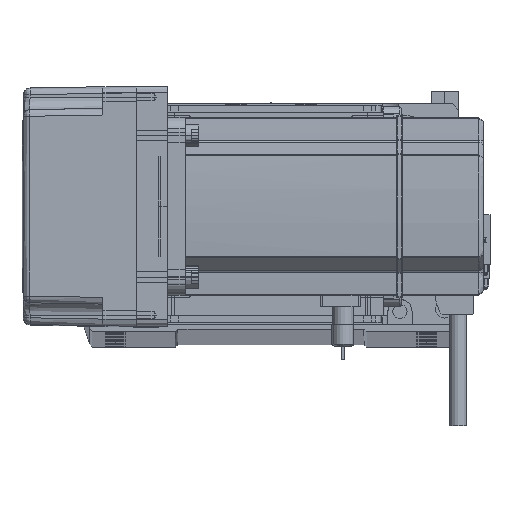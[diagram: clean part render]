
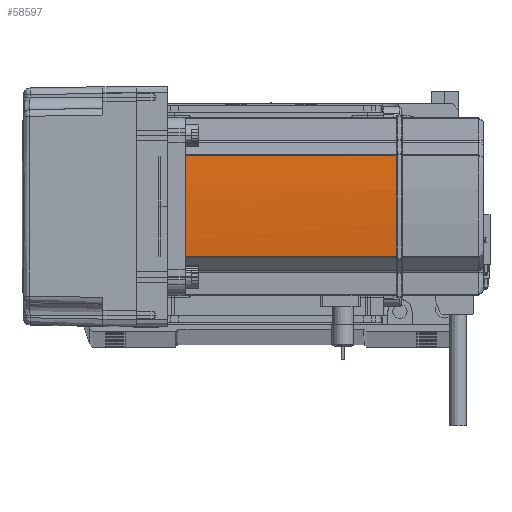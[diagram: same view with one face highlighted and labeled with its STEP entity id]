
A CAD part, top view. The second image highlights one B-rep face of the part: STEP entity #58597.
In plain terms, the highlighted cylindrical face has radius 270 mm (diameter 540 mm), a partial arc.
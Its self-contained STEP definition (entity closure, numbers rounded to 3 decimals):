
#1454 = CIRCLE ( 'NONE', #5414, 270. ) ;
#1481 = ORIENTED_EDGE ( 'NONE', *, *, #44801, .T. ) ;
#4629 = DIRECTION ( 'NONE',  ( -1., 0., 0. ) ) ;
#5029 = VERTEX_POINT ( 'NONE', #13039 ) ;
#5414 = AXIS2_PLACEMENT_3D ( 'NONE', #12383, #50113, #55531 ) ;
#5591 = CARTESIAN_POINT ( 'NONE',  ( -230., 0., 58. ) ) ;
#5820 = DIRECTION ( 'NONE',  ( 0., 0., -1. ) ) ;
#6612 = FACE_OUTER_BOUND ( 'NONE', #26847, .T. ) ;
#7896 = VERTEX_POINT ( 'NONE', #54587 ) ;
#8948 = CARTESIAN_POINT ( 'NONE',  ( 39.042, -22.724, 58. ) ) ;
#9415 = VERTEX_POINT ( 'NONE', #21417 ) ;
#9651 = ORIENTED_EDGE ( 'NONE', *, *, #68433, .F. ) ;
#11146 = CARTESIAN_POINT ( 'NONE',  ( 40., -0.127, 134. ) ) ;
#12050 = CARTESIAN_POINT ( 'NONE',  ( 40., -0.042, 134. ) ) ;
#12383 = CARTESIAN_POINT ( 'NONE',  ( -230., 0., 134. ) ) ;
#13039 = CARTESIAN_POINT ( 'NONE',  ( 39.042, -22.724, 39. ) ) ;
#13467 = DIRECTION ( 'NONE',  ( 0., 0., -1. ) ) ;
#14371 = AXIS2_PLACEMENT_3D ( 'NONE', #5591, #5820, #31718 ) ;
#16546 = CARTESIAN_POINT ( 'NONE',  ( 39.042, 22.724, 39. ) ) ;
#20893 = ORIENTED_EDGE ( 'NONE', *, *, #51523, .T. ) ;
#21417 = CARTESIAN_POINT ( 'NONE',  ( 40., 0.127, 134. ) ) ;
#25083 = VERTEX_POINT ( 'NONE', #16546 ) ;
#26305 = VERTEX_POINT ( 'NONE', #66965 ) ;
#26847 = EDGE_LOOP ( 'NONE', ( #20893, #9651, #66214, #34684, #68540, #1481 ) ) ;
#27377 = CARTESIAN_POINT ( 'NONE',  ( 40., 0.042, 134. ) ) ;
#31221 = DIRECTION ( 'NONE',  ( 0., 0., -1. ) ) ;
#31225 = VECTOR ( 'NONE', #36264, 1000. ) ;
#31718 = DIRECTION ( 'NONE',  ( -1., 0., 0. ) ) ;
#32030 = AXIS2_PLACEMENT_3D ( 'NONE', #67701, #13467, #35357 ) ;
#34684 = ORIENTED_EDGE ( 'NONE', *, *, #50604, .T. ) ;
#34813 = B_SPLINE_CURVE_WITH_KNOTS ( 'NONE', 3,
 ( #11146, #12050, #27377, #55188 ),
 .UNSPECIFIED., .F., .F.,
 ( 4, 4 ),
 ( 0., 1. ),
 .UNSPECIFIED. ) ;
#35357 = DIRECTION ( 'NONE',  ( -1., 0., 0. ) ) ;
#36264 = DIRECTION ( 'NONE',  ( 0., 0., -1. ) ) ;
#40757 = CIRCLE ( 'NONE', #32030, 270. ) ;
#44801 = EDGE_CURVE ( 'NONE', #45037, #26305, #57018, .T. ) ;
#45037 = VERTEX_POINT ( 'NONE', #49586 ) ;
#49586 = CARTESIAN_POINT ( 'NONE',  ( 40., -0.127, 134. ) ) ;
#50113 = DIRECTION ( 'NONE',  ( 0., 0., -1. ) ) ;
#50604 = EDGE_CURVE ( 'NONE', #7896, #9415, #1454, .T. ) ;
#51414 = DIRECTION ( 'NONE',  ( 0., 0., 1. ) ) ;
#51523 = EDGE_CURVE ( 'NONE', #26305, #5029, #62503, .T. ) ;
#51708 = VECTOR ( 'NONE', #51414, 1000. ) ;
#53423 = LINE ( 'NONE', #66293, #51708 ) ;
#54587 = CARTESIAN_POINT ( 'NONE',  ( 39.042, 22.724, 134. ) ) ;
#55188 = CARTESIAN_POINT ( 'NONE',  ( 40., 0.127, 134. ) ) ;
#55531 = DIRECTION ( 'NONE',  ( -1., 0., 0. ) ) ;
#55860 = EDGE_CURVE ( 'NONE', #25083, #7896, #53423, .T. ) ;
#57018 = CIRCLE ( 'NONE', #59687, 270. ) ;
#58597 = ADVANCED_FACE ( 'NONE', ( #6612 ), #60560, .T. ) ;
#59687 = AXIS2_PLACEMENT_3D ( 'NONE', #63538, #31221, #4629 ) ;
#60560 = CYLINDRICAL_SURFACE ( 'NONE', #14371, 270. ) ;
#62503 = LINE ( 'NONE', #8948, #31225 ) ;
#63538 = CARTESIAN_POINT ( 'NONE',  ( -230., 0., 134. ) ) ;
#66214 = ORIENTED_EDGE ( 'NONE', *, *, #55860, .T. ) ;
#66293 = CARTESIAN_POINT ( 'NONE',  ( 39.042, 22.724, 58. ) ) ;
#66965 = CARTESIAN_POINT ( 'NONE',  ( 39.042, -22.724, 134. ) ) ;
#67701 = CARTESIAN_POINT ( 'NONE',  ( -230., 0., 39. ) ) ;
#68433 = EDGE_CURVE ( 'NONE', #25083, #5029, #40757, .T. ) ;
#68540 = ORIENTED_EDGE ( 'NONE', *, *, #69343, .F. ) ;
#69343 = EDGE_CURVE ( 'NONE', #45037, #9415, #34813, .T. ) ;
